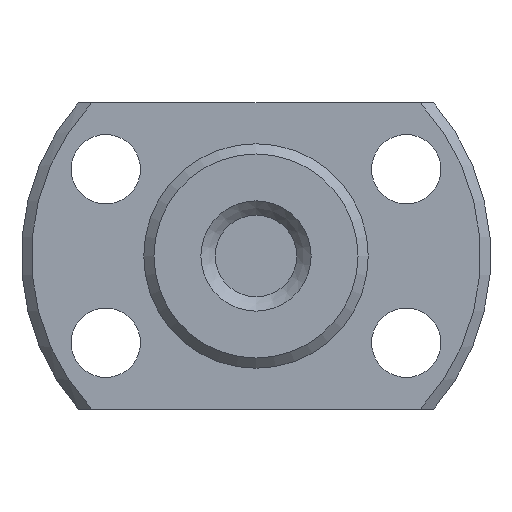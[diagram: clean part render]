
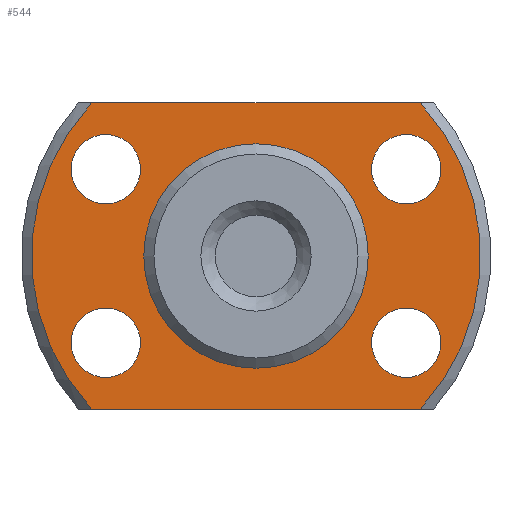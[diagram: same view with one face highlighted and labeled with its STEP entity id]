
A CAD part, left-side view. The second image highlights one B-rep face of the part: STEP entity #544.
In plain terms, the highlighted planar face has unit normal (-1, 0, 0) as drawn and (1, 0, 0) by its records, which use the part's own axes.
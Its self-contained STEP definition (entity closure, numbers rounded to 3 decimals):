
#71=LINE('',#937,#87);
#72=LINE('',#941,#88);
#87=VECTOR('',#774,1000.);
#88=VECTOR('',#777,1000.);
#146=ORIENTED_EDGE('',*,*,#250,.T.);
#147=ORIENTED_EDGE('',*,*,#251,.T.);
#148=ORIENTED_EDGE('',*,*,#252,.T.);
#149=ORIENTED_EDGE('',*,*,#253,.T.);
#150=ORIENTED_EDGE('',*,*,#254,.F.);
#151=ORIENTED_EDGE('',*,*,#255,.T.);
#152=ORIENTED_EDGE('',*,*,#256,.T.);
#153=ORIENTED_EDGE('',*,*,#257,.T.);
#154=ORIENTED_EDGE('',*,*,#258,.T.);
#250=EDGE_CURVE('',#309,#309,#354,.F.);
#251=EDGE_CURVE('',#310,#310,#355,.F.);
#252=EDGE_CURVE('',#311,#311,#356,.F.);
#253=EDGE_CURVE('',#312,#312,#357,.F.);
#254=EDGE_CURVE('',#313,#313,#358,.T.);
#255=EDGE_CURVE('',#314,#315,#359,.T.);
#256=EDGE_CURVE('',#315,#316,#71,.T.);
#257=EDGE_CURVE('',#316,#317,#360,.T.);
#258=EDGE_CURVE('',#317,#314,#72,.T.);
#309=VERTEX_POINT('',#925);
#310=VERTEX_POINT('',#927);
#311=VERTEX_POINT('',#929);
#312=VERTEX_POINT('',#931);
#313=VERTEX_POINT('',#933);
#314=VERTEX_POINT('',#935);
#315=VERTEX_POINT('',#936);
#316=VERTEX_POINT('',#938);
#317=VERTEX_POINT('',#940);
#354=CIRCLE('',#631,1.7);
#355=CIRCLE('',#632,1.7);
#356=CIRCLE('',#633,1.7);
#357=CIRCLE('',#634,1.7);
#358=CIRCLE('',#635,5.375);
#359=CIRCLE('',#636,11.);
#360=CIRCLE('',#637,11.);
#404=EDGE_LOOP('',(#146));
#405=EDGE_LOOP('',(#147));
#406=EDGE_LOOP('',(#148));
#407=EDGE_LOOP('',(#149));
#408=EDGE_LOOP('',(#150));
#409=EDGE_LOOP('',(#151,#152,#153,#154));
#474=FACE_BOUND('',#404,.T.);
#475=FACE_BOUND('',#405,.T.);
#476=FACE_BOUND('',#406,.T.);
#477=FACE_BOUND('',#407,.T.);
#478=FACE_BOUND('',#408,.T.);
#479=FACE_BOUND('',#409,.T.);
#522=PLANE('',#630);
#544=ADVANCED_FACE('',(#474,#475,#476,#477,#478,#479),#522,.T.);
#630=AXIS2_PLACEMENT_3D('',#923,#760,#761);
#631=AXIS2_PLACEMENT_3D('',#924,#762,#763);
#632=AXIS2_PLACEMENT_3D('',#926,#764,#765);
#633=AXIS2_PLACEMENT_3D('',#928,#766,#767);
#634=AXIS2_PLACEMENT_3D('',#930,#768,#769);
#635=AXIS2_PLACEMENT_3D('',#932,#770,#771);
#636=AXIS2_PLACEMENT_3D('',#934,#772,#773);
#637=AXIS2_PLACEMENT_3D('',#939,#775,#776);
#760=DIRECTION('',(1.,0.,0.));
#761=DIRECTION('',(0.,0.,-1.));
#762=DIRECTION('',(1.,0.,0.));
#763=DIRECTION('',(0.,0.,-1.));
#764=DIRECTION('',(1.,0.,0.));
#765=DIRECTION('',(0.,0.,-1.));
#766=DIRECTION('',(1.,0.,0.));
#767=DIRECTION('',(0.,0.,-1.));
#768=DIRECTION('',(1.,0.,0.));
#769=DIRECTION('',(0.,0.,-1.));
#770=DIRECTION('',(1.,0.,0.));
#771=DIRECTION('',(0.,0.,-1.));
#772=DIRECTION('',(1.,0.,0.));
#773=DIRECTION('',(0.,0.,-1.));
#774=DIRECTION('',(0.,1.,0.));
#775=DIRECTION('',(1.,0.,0.));
#776=DIRECTION('',(0.,0.,-1.));
#777=DIRECTION('',(0.,-1.,0.));
#923=CARTESIAN_POINT('',(4.,5.375,0.));
#924=CARTESIAN_POINT('',(4.,7.361,4.25));
#925=CARTESIAN_POINT('',(4.,7.361,2.55));
#926=CARTESIAN_POINT('',(4.,-7.361,-4.25));
#927=CARTESIAN_POINT('',(4.,-7.361,-5.95));
#928=CARTESIAN_POINT('',(4.,-7.361,4.25));
#929=CARTESIAN_POINT('',(4.,-7.361,2.55));
#930=CARTESIAN_POINT('',(4.,7.361,-4.25));
#931=CARTESIAN_POINT('',(4.,7.361,-5.95));
#932=CARTESIAN_POINT('',(4.,0.,0.));
#933=CARTESIAN_POINT('',(4.,0.,-5.375));
#934=CARTESIAN_POINT('',(4.,0.,0.));
#935=CARTESIAN_POINT('',(4.,-8.047,7.5));
#936=CARTESIAN_POINT('',(4.,-8.047,-7.5));
#937=CARTESIAN_POINT('',(4.,5.375,-7.5));
#938=CARTESIAN_POINT('',(4.,8.047,-7.5));
#939=CARTESIAN_POINT('',(4.,0.,0.));
#940=CARTESIAN_POINT('',(4.,8.047,7.5));
#941=CARTESIAN_POINT('',(4.,5.375,7.5));
